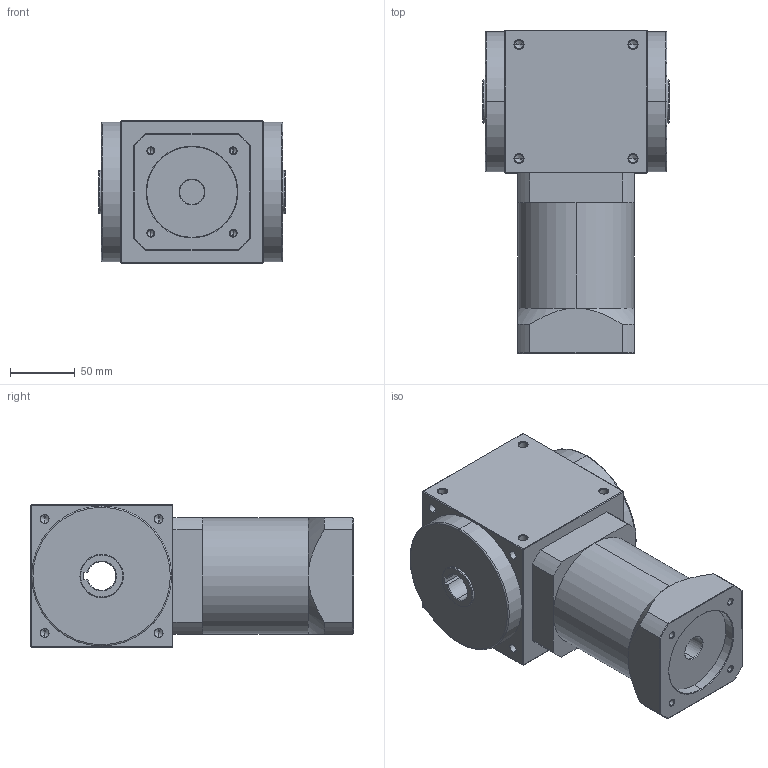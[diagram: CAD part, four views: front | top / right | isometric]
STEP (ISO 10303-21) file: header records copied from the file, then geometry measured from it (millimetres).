
FILE_DESCRIPTION (( 'STEP AP214' ), '1' );
FILE_NAME ('AT110-FH-L2 -750W.STEP', '2020-04-14T02:51:52', ( 'User' ), ( 'Far123' ), 'SwSTEP 2.0', 'SolidWorks 2015', '' );
FILE_SCHEMA (( 'AUTOMOTIVE_DESIGN' ));
Length unit declared in the file: millimetre
Products named in the file (1): AT110-FH-L2 -750W
Bounding box: 144 x 249.5 x 110 mm (x, y, z)
Volume: 2467973 mm3; surface area: 148157.6 mm2
Topology: 1 solids, 1 shells, 255 faces, 646 edges, 352 vertices
Faces by surface type: cylinder 113, cone 86, plane 52, torus 4
Entity records: 8306 total; most frequent: CARTESIAN_POINT 1690, ORIENTED_EDGE 1196, DIRECTION 1170, EDGE_CURVE 598, AXIS2_PLACEMENT_3D 448, VERTEX_POINT 352, EDGE_LOOP 288, LINE 274
